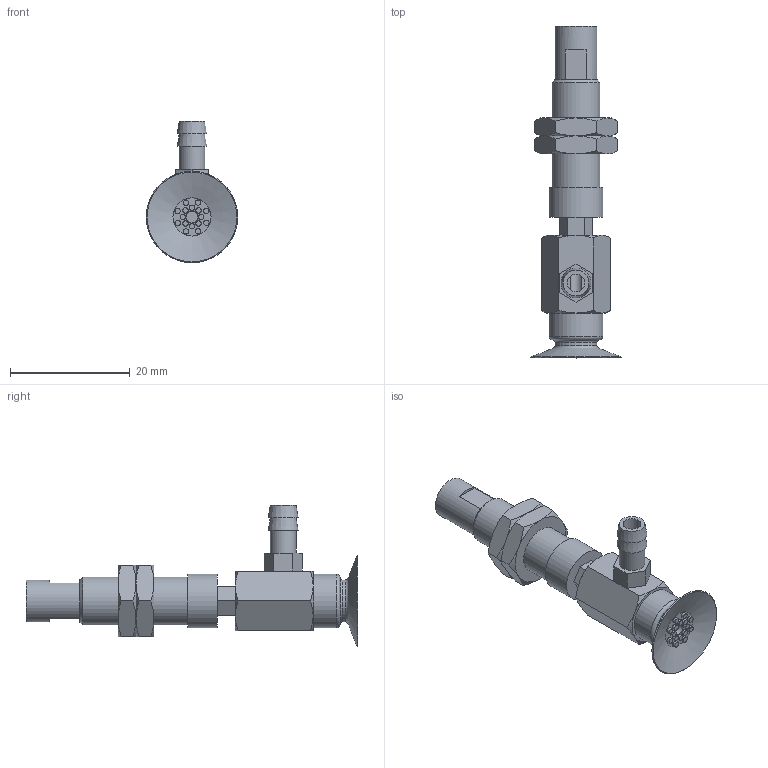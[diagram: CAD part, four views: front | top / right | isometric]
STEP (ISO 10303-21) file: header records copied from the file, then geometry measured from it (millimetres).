
FILE_DESCRIPTION(('STEP AP203'),'1');
FILE_NAME('-T.stp','2025-03-13T03:02:37',(' '),(' '),'Spatial InterOp 3D',' ',' ');
FILE_SCHEMA(('CONFIG_CONTROL_DESIGN'));
Length unit declared in the file: millimetre
Products named in the file (7): BNABPAYH-15A-3-※-T; NAPATH-10A-3--M; NAPATH-10A-3--F; Nut-10A-S; CONNECTOR-10A-3-PA; CONNECTOR-10A-3-T-PA; BPAG-15A-※
Assembly tree (7 placements, depth 2):
  BNABPAYH-15A-3-※-T
    NAPATH-10A-3--M
    NAPATH-10A-3--F
    Nut-10A-S  x2
    CONNECTOR-10A-3-PA
    CONNECTOR-10A-3-T-PA
    BPAG-15A-※
Bounding box: 15.3 x 55.5 x 23.65 mm (x, y, z)
Volume: 3585.1 mm3; surface area: 4708.4 mm2
Topology: 7 solids, 7 shells, 188 faces, 382 edges, 237 vertices
Faces by surface type: plane 91, cone 53, cylinder 35, torus 9
Full cylindrical faces by diameter (mm): 0.9 x16, 2 x2, 3 x1, 4 x2, 4.134 x2, 4.3 x1, 5 x2, 6 x2, 7 x2, 7.188 x2, 8 x1, 9 x2
Entity records: 4546 total; most frequent: CARTESIAN_POINT 991, DIRECTION 682, ORIENTED_EDGE 538, AXIS2_PLACEMENT_3D 294, EDGE_CURVE 269, EDGE_LOOP 262, FACE_OUTER_BOUND 208, VERTEX_POINT 201
